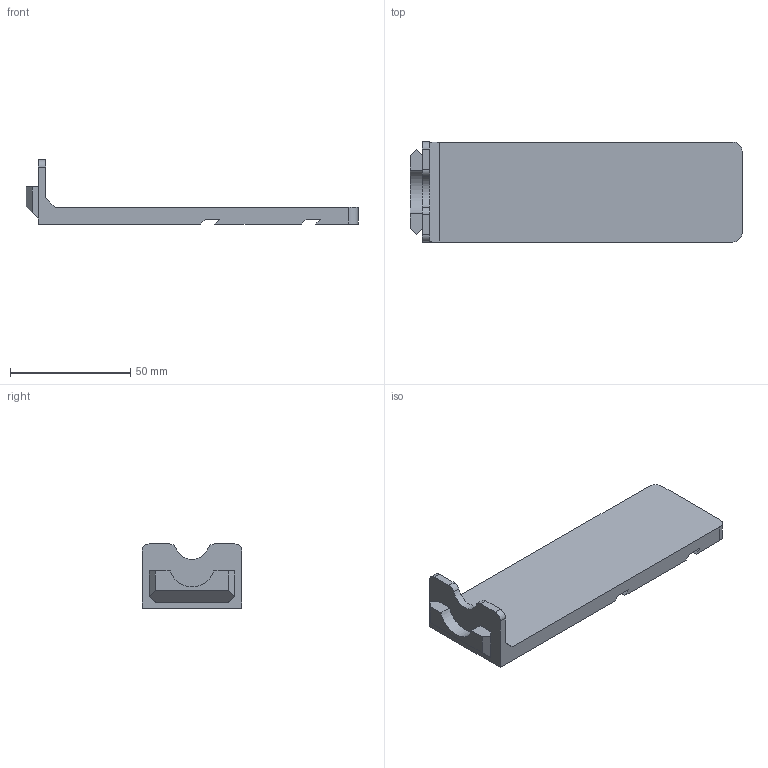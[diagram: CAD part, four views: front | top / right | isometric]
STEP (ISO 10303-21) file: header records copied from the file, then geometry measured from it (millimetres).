
FILE_DESCRIPTION(/* description */ ('','CAx-IF Rec.Pracs.---Representation and Presentation of Product Manufacturing Information (PMI)---4.0---2014-10-13'),/* implementation_level */ '2;1');
FILE_NAME(/* name */ 'Goews 1x Hanger Flat Shelf 1x3 Base.step',/* time_stamp */ '2024-11-29T16:34:40-05:00',/* author */ (''),/* organization */ (''),/* preprocessor_version */ 'ST-DEVELOPER v20',/* originating_system */ 'Autodesk Translation Framework v13.20.0.188',/* authorisation */ '');
FILE_SCHEMA (('AP242_MANAGED_MODEL_BASED_3D_ENGINEERING_MIM_LF { 1 0 10303 442 1 1 4 }'));
Length unit declared in the file: millimetre
Products named in the file (1): Goews 1x Hanger Shelf 2x
Bounding box: 138.15 x 41.6 x 26.72 mm (x, y, z)
Volume: 41621 mm3; surface area: 15872.6 mm2
Topology: 1 solids, 1 shells, 37 faces, 100 edges, 66 vertices
Faces by surface type: plane 29, cylinder 8
Entity records: 1187 total; most frequent: CARTESIAN_POINT 204, ORIENTED_EDGE 200, DIRECTION 192, EDGE_CURVE 100, LINE 84, VECTOR 84, VERTEX_POINT 66, AXIS2_PLACEMENT_3D 54
